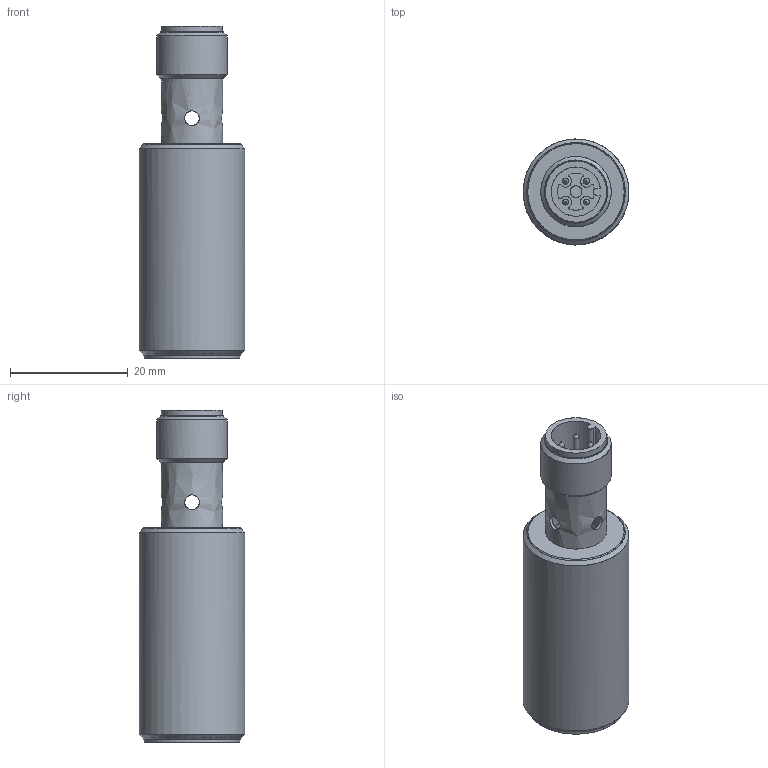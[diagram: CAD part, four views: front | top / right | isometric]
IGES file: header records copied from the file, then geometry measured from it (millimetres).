
Global section: file name: D:\dd\DSD-0326.igs; preprocessor: I-DEAS 3D IGES Translator 13; date: 20100122.131335; units: millimetre
Bounding box: 17.99 x 18 x 56.5 mm (x, y, z)
Surface area: 7789.5 mm2
Topology: 4 solids, 4 shells, 79 faces, 514 edges, 452 vertices
Faces by surface type: bspline 79
